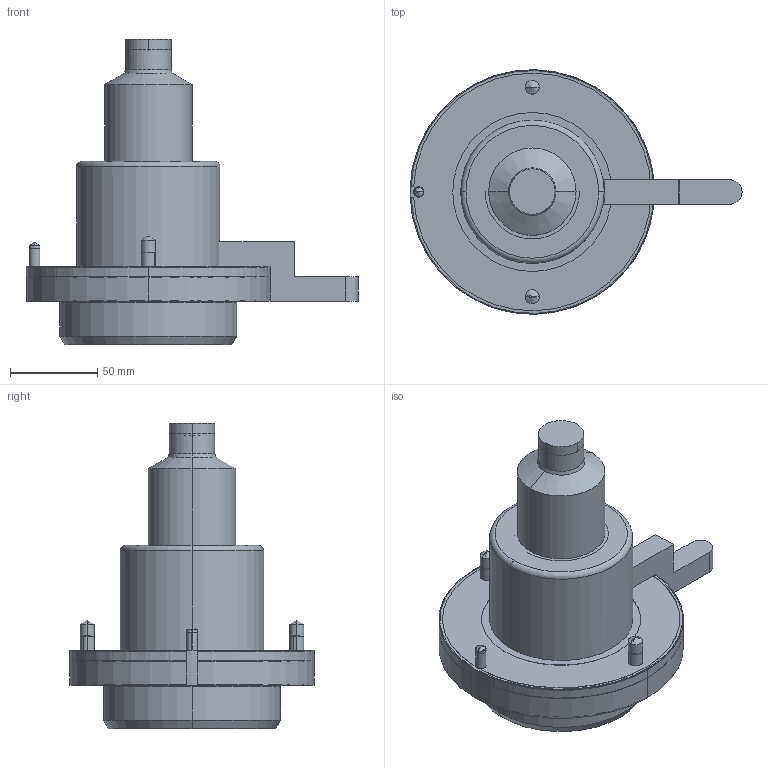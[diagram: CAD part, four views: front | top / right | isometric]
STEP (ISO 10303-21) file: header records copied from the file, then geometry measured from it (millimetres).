
FILE_DESCRIPTION (( 'STEP AP214' ), '1' );
FILE_NAME ('SB15_CLOSED_A150.STEP', '2009-07-28T12:51:31', ( 'Synventive Molding Solutions' ), ( 'Synventive Molding Solutions' ), 'SwSTEP 2.0', 'SolidWorks 2008', '' );
FILE_SCHEMA (( 'AUTOMOTIVE_DESIGN' ));
Length unit declared in the file: millimetre
Products named in the file (1): SB15_CLOSED_A150
Bounding box: 190 x 140 x 175 mm (x, y, z)
Volume: 1431687.4 mm3; surface area: 170769.9 mm2
Topology: 4 solids, 9 shells, 485 faces, 1181 edges, 731 vertices
Faces by surface type: cylinder 185, plane 157, torus 68, cone 67, sphere 6, bspline 2
Entity records: 20494 total; most frequent: CARTESIAN_POINT 3587, DIRECTION 2557, ORIENTED_EDGE 2326, EDGE_CURVE 1163, AXIS2_PLACEMENT_3D 1029, VERTEX_POINT 731, CIRCLE 545, EDGE_LOOP 536
